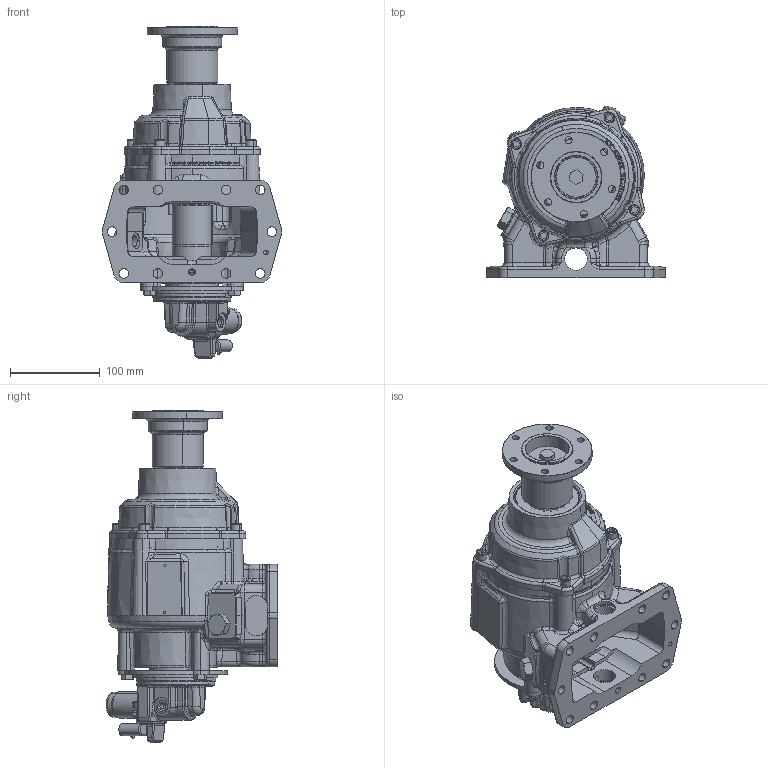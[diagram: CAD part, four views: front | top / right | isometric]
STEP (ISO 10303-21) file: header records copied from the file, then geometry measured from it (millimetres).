
FILE_DESCRIPTION (( 'STEP AP203' ), '1' );
FILE_NAME ('A20-A10XX-HX5X2PX.STEP', '2023-03-29T15:04:55', ( '' ), ( '' ), 'SwSTEP 2.0', 'SolidWorks 2021', '' );
FILE_SCHEMA (( 'CONFIG_CONTROL_DESIGN' ));
Length unit declared in the file: inch
Products named in the file (12): 14T37498; 12T36701; A20-A10XX-HX5X2PX; 35T40860; DropInSolenoidRearCoverAssembly; 47T6123_15T43431_DUST CAP INSTALLED; A20-A10XX-HX5X4PX; SC-301_25T37702; 19T62950; 25T35999TMP; 47T6123TMP_Solenoid; 15T43431_FOR CLAMPS
Assembly tree (12 placements, depth 4):
  A20-A10XX-HX5X2PX
    A20-A10XX-HX5X4PX
    DropInSolenoidRearCoverAssembly
      47T6123TMP_Solenoid
      47T6123_15T43431_DUST CAP INSTALLED
        15T43431_FOR CLAMPS
        19T62950  x2
        12T36701
        SC-301_25T37702
    14T37498
    35T40860
    25T35999TMP
Bounding box: 199.82 x 191.39 x 369.79 mm (x, y, z)
Volume: 2040310.9 mm3; surface area: 577971.5 mm2
Topology: 42 solids, 43 shells, 4035 faces, 10257 edges, 6328 vertices
Faces by surface type: plane 1396, cylinder 915, bspline 651, cone 553, torus 489, sphere 31
Entity records: 193074 total; most frequent: CARTESIAN_POINT 100592, ORIENTED_EDGE 20248, DIRECTION 17654, EDGE_CURVE 10124, AXIS2_PLACEMENT_3D 6961, VERTEX_POINT 6299, EDGE_LOOP 4279, FACE_OUTER_BOUND 4014
